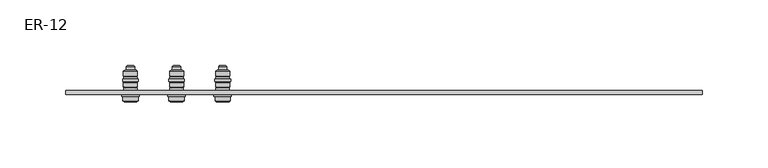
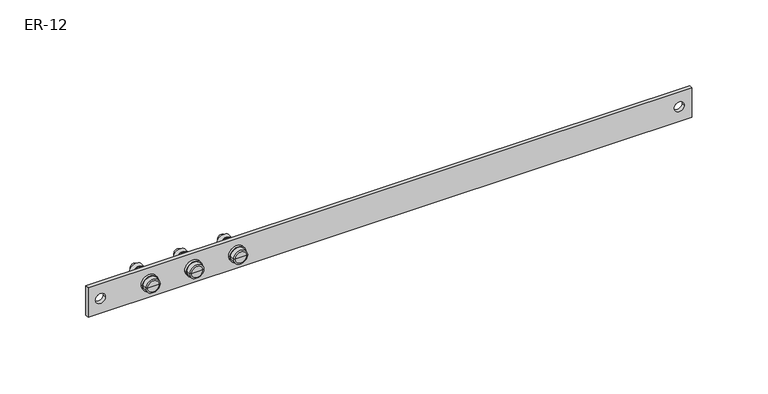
"""IFC4 building model written with IfcOpenShell, lengths in millimetres: proxy geometry, Шина заземления : ER-12."""

from ifc_helpers import new_model, si_unit, point, frame, frame_2d, origin, place, context, project, spatial, polyline, circle_curve, trimmed, segment, composite_curve, outline, extrude, source, transform, mapped, element, save
from ifc_brep_helpers import plane_surface, cylinder_surface, revolved_surface, advanced_brep


def er_12_ffd7bff1(model_context):
    return source(origin(), model_context, "Body", "SolidModel", [
        advanced_brep(
        [(-116.7264973, -8.0090804, 12.5), (-128.2735027, -8.0090804, 12.5), (-128.2735027, -4.6, 12.5), (-116.7264973, -4.6, 12.5), (-117.75, -8.6, 12.5), (-127.25, -8.6, 12.5), (-122.5, -8.6, 12.5), (-120.0415, 18.9478942, 12.5), (-124.9585, 18.9478942, 12.5), (-122.5, 18.9478942, 12.5), (-119.3828125, 18.3807956, 12.5), (-125.6171875, 18.3807956, 12.5), (-119.3828125, 15.6237103, 12.5), (-125.6171875, 15.6237103, 12.5), (-118.45, 15.6237103, 12.5), (-126.55, 15.6237103, 12.5), (-117.1764973, 14.8884531, 12.5), (-127.8235027, 14.8884531, 12.5), (-117.1764973, 11.1589674, 12.5), (-127.8235027, 11.1589674, 12.5), (-118.3098838, 10.4237103, 12.5), (-126.6901162, 10.4237103, 12.5), (-117.3240238, 10.4237103, 12.5), (-127.6759762, 10.4237103, 12.5), (-117.3240238, 8.637908, 12.5), (-127.6759762, 8.637908, 12.5), (-116.5, 8.637908, 12.5), (-128.5, 8.637908, 12.5), (-116.5, 7.037908, 12.5), (-128.5, 7.037908, 12.5), (-118.45, 7.037908, 12.5), (-126.55, 7.037908, 12.5), (-117.1764973, 6.3026509, 12.5), (-127.8235027, 6.3026509, 12.5), (-117.1764973, 2.5731651, 12.5), (-127.8235027, 2.5731651, 12.5), (-118.3098838, 1.837908, 12.5), (-126.6901162, 1.837908, 12.5), (-117.3240238, 1.837908, 12.5), (-127.6759762, 1.837908, 12.5), (-117.3240238, 0.0, 12.5), (-127.6759762, 0.0, 12.5), (-118.3098838, 0.0, 12.5), (-126.6901162, 0.0, 12.5), (-118.3098838, -3.0, 12.5), (-126.6901162, -3.0, 12.5), (-115.9352186, -3.0, 12.5), (-129.0647814, -3.0, 12.5), (-115.9352186, -4.6, 12.5), (-129.0647814, -4.6, 12.5)],
        [
            (0, 1, circle_curve(frame((-122.5, -8.0090804, 12.5), z_axis=(0.0, 1.0, 0.0), x_axis=(-1.0, 0.0, 0.0)), 5.7735027)),
            (1, 2),
            (2, 3, circle_curve(frame((-122.5, -4.6, 12.5), z_axis=(0.0, -1.0, 0.0), x_axis=(-1.0, 0.0, 0.0)), 5.7735027)),
            (3, 0),
            (1, 0, circle_curve(frame((-122.5, -8.0090804, 12.5), z_axis=(0.0, 1.0, 0.0), x_axis=(-1.0, 0.0, 0.0)), 5.7735027)),
            (3, 2, circle_curve(frame((-122.5, -4.6, 12.5), z_axis=(0.0, -1.0, 0.0), x_axis=(-1.0, 0.0, 0.0)), 5.7735027)),
            (4, 5, circle_curve(frame((-122.5, -8.6, 12.5), z_axis=(0.0, 1.0, 0.0), x_axis=(-1.0, 0.0, 0.0)), 4.75)),
            (5, 1),
            (0, 4),
            (5, 4, circle_curve(frame((-122.5, -8.6, 12.5), z_axis=(0.0, 1.0, 0.0), x_axis=(-1.0, 0.0, 0.0)), 4.75)),
            (6, 5),
            (4, 6),
            (7, 8, circle_curve(frame((-122.5, 18.9478942, 12.5), z_axis=(0.0, 1.0, 0.0), x_axis=(-1.0, 0.0, 0.0)), 2.4585)),
            (8, 9),
            (9, 7),
            (8, 7, circle_curve(frame((-122.5, 18.9478942, 12.5), z_axis=(0.0, 1.0, 0.0), x_axis=(-1.0, 0.0, 0.0)), 2.4585)),
            (10, 11, circle_curve(frame((-122.5, 18.3807956, 12.5), z_axis=(0.0, 1.0, 0.0), x_axis=(-1.0, 0.0, 0.0)), 3.1171875)),
            (11, 8),
            (7, 10),
            (11, 10, circle_curve(frame((-122.5, 18.3807956, 12.5), z_axis=(0.0, 1.0, 0.0), x_axis=(-1.0, 0.0, 0.0)), 3.1171875)),
            (12, 13, circle_curve(frame((-122.5, 15.6237103, 12.5), z_axis=(0.0, 1.0, 0.0), x_axis=(-1.0, 0.0, 0.0)), 3.1171875)),
            (13, 11),
            (10, 12),
            (13, 12, circle_curve(frame((-122.5, 15.6237103, 12.5), z_axis=(0.0, 1.0, 0.0), x_axis=(-1.0, 0.0, 0.0)), 3.1171875)),
            (14, 15, circle_curve(frame((-122.5, 15.6237103, 12.5), z_axis=(0.0, 1.0, 0.0), x_axis=(-1.0, 0.0, 0.0)), 4.05)),
            (15, 13),
            (12, 14),
            (15, 14, circle_curve(frame((-122.5, 15.6237103, 12.5), z_axis=(0.0, 1.0, 0.0), x_axis=(-1.0, 0.0, 0.0)), 4.05)),
            (16, 17, circle_curve(frame((-122.5, 14.8884531, 12.5), z_axis=(0.0, 1.0, 0.0), x_axis=(-1.0, 0.0, 0.0)), 5.3235027)),
            (17, 15),
            (14, 16),
            (17, 16, circle_curve(frame((-122.5, 14.8884531, 12.5), z_axis=(0.0, 1.0, 0.0), x_axis=(-1.0, 0.0, 0.0)), 5.3235027)),
            (18, 19, circle_curve(frame((-122.5, 11.1589674, 12.5), z_axis=(0.0, 1.0, 0.0), x_axis=(-1.0, 0.0, 0.0)), 5.3235027)),
            (19, 17),
            (16, 18),
            (19, 18, circle_curve(frame((-122.5, 11.1589674, 12.5), z_axis=(0.0, 1.0, 0.0), x_axis=(-1.0, 0.0, 0.0)), 5.3235027)),
            (20, 21, circle_curve(frame((-122.5, 10.4237103, 12.5), z_axis=(0.0, 1.0, 0.0), x_axis=(-1.0, 0.0, 0.0)), 4.1901162)),
            (21, 19),
            (18, 20),
            (21, 20, circle_curve(frame((-122.5, 10.4237103, 12.5), z_axis=(0.0, 1.0, 0.0), x_axis=(-1.0, 0.0, 0.0)), 4.1901162)),
            (22, 23, circle_curve(frame((-122.5, 10.4237103, 12.5), z_axis=(0.0, 1.0, 0.0), x_axis=(-1.0, 0.0, 0.0)), 5.1759762)),
            (23, 21),
            (20, 22),
            (23, 22, circle_curve(frame((-122.5, 10.4237103, 12.5), z_axis=(0.0, 1.0, 0.0), x_axis=(-1.0, 0.0, 0.0)), 5.1759762)),
            (24, 25, circle_curve(frame((-122.5, 8.637908, 12.5), z_axis=(0.0, 1.0, 0.0), x_axis=(-1.0, 0.0, 0.0)), 5.1759762)),
            (25, 23),
            (22, 24),
            (25, 24, circle_curve(frame((-122.5, 8.637908, 12.5), z_axis=(0.0, 1.0, 0.0), x_axis=(-1.0, 0.0, 0.0)), 5.1759762)),
            (26, 27, circle_curve(frame((-122.5, 8.637908, 12.5), z_axis=(0.0, 1.0, 0.0), x_axis=(-1.0, 0.0, 0.0)), 6.0)),
            (27, 25),
            (24, 26),
            (27, 26, circle_curve(frame((-122.5, 8.637908, 12.5), z_axis=(0.0, 1.0, 0.0), x_axis=(-1.0, 0.0, 0.0)), 6.0)),
            (28, 29, circle_curve(frame((-122.5, 7.037908, 12.5), z_axis=(0.0, 1.0, 0.0), x_axis=(-1.0, 0.0, 0.0)), 6.0)),
            (29, 27),
            (26, 28),
            (29, 28, circle_curve(frame((-122.5, 7.037908, 12.5), z_axis=(0.0, 1.0, 0.0), x_axis=(-1.0, 0.0, 0.0)), 6.0)),
            (30, 31, circle_curve(frame((-122.5, 7.037908, 12.5), z_axis=(0.0, 1.0, 0.0), x_axis=(-1.0, 0.0, 0.0)), 4.05)),
            (31, 29),
            (28, 30),
            (31, 30, circle_curve(frame((-122.5, 7.037908, 12.5), z_axis=(0.0, 1.0, 0.0), x_axis=(-1.0, 0.0, 0.0)), 4.05)),
            (32, 33, circle_curve(frame((-122.5, 6.3026509, 12.5), z_axis=(0.0, 1.0, 0.0), x_axis=(-1.0, 0.0, 0.0)), 5.3235027)),
            (33, 31),
            (30, 32),
            (33, 32, circle_curve(frame((-122.5, 6.3026509, 12.5), z_axis=(0.0, 1.0, 0.0), x_axis=(-1.0, 0.0, 0.0)), 5.3235027)),
            (34, 35, circle_curve(frame((-122.5, 2.5731651, 12.5), z_axis=(0.0, 1.0, 0.0), x_axis=(-1.0, 0.0, 0.0)), 5.3235027)),
            (35, 33),
            (32, 34),
            (35, 34, circle_curve(frame((-122.5, 2.5731651, 12.5), z_axis=(0.0, 1.0, 0.0), x_axis=(-1.0, 0.0, 0.0)), 5.3235027)),
            (36, 37, circle_curve(frame((-122.5, 1.837908, 12.5), z_axis=(0.0, 1.0, 0.0), x_axis=(-1.0, 0.0, 0.0)), 4.1901162)),
            (37, 35),
            (34, 36),
            (37, 36, circle_curve(frame((-122.5, 1.837908, 12.5), z_axis=(0.0, 1.0, 0.0), x_axis=(-1.0, 0.0, 0.0)), 4.1901162)),
            (38, 39, circle_curve(frame((-122.5, 1.837908, 12.5), z_axis=(0.0, 1.0, 0.0), x_axis=(-1.0, 0.0, 0.0)), 5.1759762)),
            (39, 37),
            (36, 38),
            (39, 38, circle_curve(frame((-122.5, 1.837908, 12.5), z_axis=(0.0, 1.0, 0.0), x_axis=(-1.0, 0.0, 0.0)), 5.1759762)),
            (40, 41, circle_curve(frame((-122.5, 0.0, 12.5), z_axis=(0.0, 1.0, 0.0), x_axis=(-1.0, 0.0, 0.0)), 5.1759762)),
            (41, 39),
            (38, 40),
            (41, 40, circle_curve(frame((-122.5, 0.0, 12.5), z_axis=(0.0, 1.0, 0.0), x_axis=(-1.0, 0.0, 0.0)), 5.1759762)),
            (42, 43, circle_curve(frame((-122.5, 0.0, 12.5), z_axis=(0.0, 1.0, 0.0), x_axis=(-1.0, 0.0, 0.0)), 4.1901162)),
            (43, 41),
            (40, 42),
            (43, 42, circle_curve(frame((-122.5, 0.0, 12.5), z_axis=(0.0, 1.0, 0.0), x_axis=(-1.0, 0.0, 0.0)), 4.1901162)),
            (44, 45, circle_curve(frame((-122.5, -3.0, 12.5), z_axis=(0.0, 1.0, 0.0), x_axis=(-1.0, 0.0, 0.0)), 4.1901162)),
            (45, 43),
            (42, 44),
            (45, 44, circle_curve(frame((-122.5, -3.0, 12.5), z_axis=(0.0, 1.0, 0.0), x_axis=(-1.0, 0.0, 0.0)), 4.1901162)),
            (46, 47, circle_curve(frame((-122.5, -3.0, 12.5), z_axis=(0.0, 1.0, 0.0), x_axis=(-1.0, 0.0, 0.0)), 6.5647814)),
            (47, 45),
            (44, 46),
            (47, 46, circle_curve(frame((-122.5, -3.0, 12.5), z_axis=(0.0, 1.0, 0.0), x_axis=(-1.0, 0.0, 0.0)), 6.5647814)),
            (48, 49, circle_curve(frame((-122.5, -4.6, 12.5), z_axis=(0.0, 1.0, 0.0), x_axis=(-1.0, 0.0, 0.0)), 6.5647814)),
            (49, 47),
            (46, 48),
            (49, 48, circle_curve(frame((-122.5, -4.6, 12.5), z_axis=(0.0, 1.0, 0.0), x_axis=(-1.0, 0.0, 0.0)), 6.5647814)),
            (2, 49),
            (48, 3),
        ],
        [
            cylinder_surface(frame((-122.5, 18.9478942, 12.5), z_axis=(0.0, -1.0, 0.0), x_axis=(-1.0, 0.0, 0.0)), 5.7735027),
            revolved_surface(polyline([(-128.2735027, -8.0090804, 12.5), (-127.25, -8.6, 12.5)]), (-122.5, 18.9478942, 12.5), (0.0, -1.0, 0.0)),
            plane_surface(frame((-122.5, -8.6, 12.5), z_axis=(0.0, -1.0, 0.0), x_axis=(-1.0, 0.0, 0.0))),
            plane_surface(frame((-122.5, 18.9478942, 12.5), z_axis=(0.0, 1.0, 0.0), x_axis=(-1.0, 0.0, 0.0))),
            revolved_surface(polyline([(-124.9585, 18.9478942, 12.5), (-125.6171875, 18.3807956, 12.5)]), (-122.5, 18.9478942, 12.5), (0.0, -1.0, 0.0)),
            cylinder_surface(frame((-122.5, 18.9478942, 12.5), z_axis=(0.0, -1.0, 0.0), x_axis=(-1.0, 0.0, 0.0)), 3.1171875),
            plane_surface(frame((-122.5, 15.6237103, 12.5), z_axis=(0.0, 1.0, 0.0), x_axis=(-1.0, 0.0, 0.0))),
            revolved_surface(polyline([(-126.55, 15.6237103, 12.5), (-127.8235027, 14.8884531, 12.5)]), (-122.5, 18.9478942, 12.5), (0.0, -1.0, 0.0)),
            cylinder_surface(frame((-122.5, 18.9478942, 12.5), z_axis=(0.0, -1.0, 0.0), x_axis=(-1.0, 0.0, 0.0)), 5.3235027),
            revolved_surface(polyline([(-127.8235027, 11.1589674, 12.5), (-126.6901162, 10.4237103, 12.5)]), (-122.5, 18.9478942, 12.5), (0.0, -1.0, 0.0)),
            plane_surface(frame((-122.5, 10.4237103, 12.5), z_axis=(0.0, 1.0, 0.0), x_axis=(-1.0, 0.0, 0.0))),
            cylinder_surface(frame((-122.5, 18.9478942, 12.5), z_axis=(0.0, -1.0, 0.0), x_axis=(-1.0, 0.0, 0.0)), 5.1759762),
            plane_surface(frame((-122.5, 8.637908, 12.5), z_axis=(0.0, 1.0, 0.0), x_axis=(-1.0, 0.0, 0.0))),
            cylinder_surface(frame((-122.5, 18.9478942, 12.5), z_axis=(0.0, -1.0, 0.0), x_axis=(-1.0, 0.0, 0.0)), 6.0),
            plane_surface(frame((-122.5, 7.037908, 12.5), z_axis=(0.0, -1.0, 0.0), x_axis=(-1.0, 0.0, 0.0))),
            revolved_surface(polyline([(-126.55, 7.037908, 12.5), (-127.8235027, 6.3026509, 12.5)]), (-122.5, 18.9478942, 12.5), (0.0, -1.0, 0.0)),
            revolved_surface(polyline([(-127.8235027, 2.5731651, 12.5), (-126.6901162, 1.837908, 12.5)]), (-122.5, 18.9478942, 12.5), (0.0, -1.0, 0.0)),
            plane_surface(frame((-122.5, 1.837908, 12.5), z_axis=(0.0, 1.0, 0.0), x_axis=(-1.0, 0.0, 0.0))),
            plane_surface(frame((-122.5, 0.0, 12.5), z_axis=(0.0, -1.0, 0.0), x_axis=(-1.0, 0.0, 0.0))),
            cylinder_surface(frame((-122.5, 18.9478942, 12.5), z_axis=(0.0, -1.0, 0.0), x_axis=(-1.0, 0.0, 0.0)), 4.1901162),
            plane_surface(frame((-122.5, -3.0, 12.5), z_axis=(0.0, 1.0, 0.0), x_axis=(-1.0, 0.0, 0.0))),
            cylinder_surface(frame((-122.5, 18.9478942, 12.5), z_axis=(0.0, -1.0, 0.0), x_axis=(-1.0, 0.0, 0.0)), 6.5647814),
            plane_surface(frame((-122.5, -4.6, 12.5), z_axis=(0.0, -1.0, 0.0), x_axis=(-1.0, 0.0, 0.0))),
        ],
        [
            (0, [[1, 2, 3, 4]]),
            (0, [[5, -4, 6, -2]]),
            (1, [[7, 8, -1, 9]]),
            (1, [[10, -9, -5, -8]]),
            (2, [[11, -7, 12]]),
            (2, [[-12, -10, -11]]),
            (3, [[13, 14, 15]]),
            (3, [[16, -15, -14]]),
            (4, [[17, 18, -13, 19]]),
            (4, [[20, -19, -16, -18]]),
            (5, [[21, 22, -17, 23]]),
            (5, [[24, -23, -20, -22]]),
            (6, [[25, 26, -21, 27]]),
            (6, [[28, -27, -24, -26]]),
            (7, [[29, 30, -25, 31]]),
            (7, [[32, -31, -28, -30]]),
            (8, [[33, 34, -29, 35]]),
            (8, [[36, -35, -32, -34]]),
            (9, [[37, 38, -33, 39]]),
            (9, [[40, -39, -36, -38]]),
            (10, [[41, 42, -37, 43]]),
            (10, [[44, -43, -40, -42]]),
            (11, [[45, 46, -41, 47]]),
            (11, [[48, -47, -44, -46]]),
            (12, [[49, 50, -45, 51]]),
            (12, [[52, -51, -48, -50]]),
            (13, [[53, 54, -49, 55]]),
            (13, [[56, -55, -52, -54]]),
            (14, [[57, 58, -53, 59]]),
            (14, [[60, -59, -56, -58]]),
            (15, [[61, 62, -57, 63]]),
            (15, [[64, -63, -60, -62]]),
            (8, [[65, 66, -61, 67]]),
            (8, [[68, -67, -64, -66]]),
            (16, [[69, 70, -65, 71]]),
            (16, [[72, -71, -68, -70]]),
            (17, [[73, 74, -69, 75]]),
            (17, [[76, -75, -72, -74]]),
            (11, [[77, 78, -73, 79]]),
            (11, [[80, -79, -76, -78]]),
            (18, [[81, 82, -77, 83]]),
            (18, [[84, -83, -80, -82]]),
            (19, [[85, 86, -81, 87]]),
            (19, [[88, -87, -84, -86]]),
            (20, [[89, 90, -85, 91]]),
            (20, [[92, -91, -88, -90]]),
            (21, [[93, 94, -89, 95]]),
            (21, [[96, -95, -92, -94]]),
            (22, [[-3, 97, -93, 98]]),
            (22, [[-6, -98, -96, -97]]),
        ],
    ),
        advanced_brep(
        [(-151.7264973, -8.0090804, 12.5), (-163.2735027, -8.0090804, 12.5), (-163.2735027, -4.6, 12.5), (-151.7264973, -4.6, 12.5), (-152.75, -8.6, 12.5), (-162.25, -8.6, 12.5), (-157.5, -8.6, 12.5), (-155.0415, 18.9478942, 12.5), (-159.9585, 18.9478942, 12.5), (-157.5, 18.9478942, 12.5), (-154.3828125, 18.3807956, 12.5), (-160.6171875, 18.3807956, 12.5), (-154.3828125, 15.6237103, 12.5), (-160.6171875, 15.6237103, 12.5), (-153.45, 15.6237103, 12.5), (-161.55, 15.6237103, 12.5), (-152.1764973, 14.8884531, 12.5), (-162.8235027, 14.8884531, 12.5), (-152.1764973, 11.1589674, 12.5), (-162.8235027, 11.1589674, 12.5), (-153.3098838, 10.4237103, 12.5), (-161.6901162, 10.4237103, 12.5), (-152.3240238, 10.4237103, 12.5), (-162.6759762, 10.4237103, 12.5), (-152.3240238, 8.637908, 12.5), (-162.6759762, 8.637908, 12.5), (-151.5, 8.637908, 12.5), (-163.5, 8.637908, 12.5), (-151.5, 7.037908, 12.5), (-163.5, 7.037908, 12.5), (-153.45, 7.037908, 12.5), (-161.55, 7.037908, 12.5), (-152.1764973, 6.3026509, 12.5), (-162.8235027, 6.3026509, 12.5), (-152.1764973, 2.5731651, 12.5), (-162.8235027, 2.5731651, 12.5), (-153.3098838, 1.837908, 12.5), (-161.6901162, 1.837908, 12.5), (-152.3240238, 1.837908, 12.5), (-162.6759762, 1.837908, 12.5), (-152.3240238, 0.0, 12.5), (-162.6759762, 0.0, 12.5), (-153.3098838, 0.0, 12.5), (-161.6901162, 0.0, 12.5), (-153.3098838, -3.0, 12.5), (-161.6901162, -3.0, 12.5), (-150.9352186, -3.0, 12.5), (-164.0647814, -3.0, 12.5), (-150.9352186, -4.6, 12.5), (-164.0647814, -4.6, 12.5)],
        [
            (0, 1, circle_curve(frame((-157.5, -8.0090804, 12.5), z_axis=(0.0, 1.0, 0.0), x_axis=(-1.0, 0.0, 0.0)), 5.7735027)),
            (1, 2),
            (2, 3, circle_curve(frame((-157.5, -4.6, 12.5), z_axis=(0.0, -1.0, 0.0), x_axis=(-1.0, 0.0, 0.0)), 5.7735027)),
            (3, 0),
            (1, 0, circle_curve(frame((-157.5, -8.0090804, 12.5), z_axis=(0.0, 1.0, 0.0), x_axis=(-1.0, 0.0, 0.0)), 5.7735027)),
            (3, 2, circle_curve(frame((-157.5, -4.6, 12.5), z_axis=(0.0, -1.0, 0.0), x_axis=(-1.0, 0.0, 0.0)), 5.7735027)),
            (4, 5, circle_curve(frame((-157.5, -8.6, 12.5), z_axis=(0.0, 1.0, 0.0), x_axis=(-1.0, 0.0, 0.0)), 4.75)),
            (5, 1),
            (0, 4),
            (5, 4, circle_curve(frame((-157.5, -8.6, 12.5), z_axis=(0.0, 1.0, 0.0), x_axis=(-1.0, 0.0, 0.0)), 4.75)),
            (6, 5),
            (4, 6),
            (7, 8, circle_curve(frame((-157.5, 18.9478942, 12.5), z_axis=(0.0, 1.0, 0.0), x_axis=(-1.0, 0.0, 0.0)), 2.4585)),
            (8, 9),
            (9, 7),
            (8, 7, circle_curve(frame((-157.5, 18.9478942, 12.5), z_axis=(0.0, 1.0, 0.0), x_axis=(-1.0, 0.0, 0.0)), 2.4585)),
            (10, 11, circle_curve(frame((-157.5, 18.3807956, 12.5), z_axis=(0.0, 1.0, 0.0), x_axis=(-1.0, 0.0, 0.0)), 3.1171875)),
            (11, 8),
            (7, 10),
            (11, 10, circle_curve(frame((-157.5, 18.3807956, 12.5), z_axis=(0.0, 1.0, 0.0), x_axis=(-1.0, 0.0, 0.0)), 3.1171875)),
            (12, 13, circle_curve(frame((-157.5, 15.6237103, 12.5), z_axis=(0.0, 1.0, 0.0), x_axis=(-1.0, 0.0, 0.0)), 3.1171875)),
            (13, 11),
            (10, 12),
            (13, 12, circle_curve(frame((-157.5, 15.6237103, 12.5), z_axis=(0.0, 1.0, 0.0), x_axis=(-1.0, 0.0, 0.0)), 3.1171875)),
            (14, 15, circle_curve(frame((-157.5, 15.6237103, 12.5), z_axis=(0.0, 1.0, 0.0), x_axis=(-1.0, 0.0, 0.0)), 4.05)),
            (15, 13),
            (12, 14),
            (15, 14, circle_curve(frame((-157.5, 15.6237103, 12.5), z_axis=(0.0, 1.0, 0.0), x_axis=(-1.0, 0.0, 0.0)), 4.05)),
            (16, 17, circle_curve(frame((-157.5, 14.8884531, 12.5), z_axis=(0.0, 1.0, 0.0), x_axis=(-1.0, 0.0, 0.0)), 5.3235027)),
            (17, 15),
            (14, 16),
            (17, 16, circle_curve(frame((-157.5, 14.8884531, 12.5), z_axis=(0.0, 1.0, 0.0), x_axis=(-1.0, 0.0, 0.0)), 5.3235027)),
            (18, 19, circle_curve(frame((-157.5, 11.1589674, 12.5), z_axis=(0.0, 1.0, 0.0), x_axis=(-1.0, 0.0, 0.0)), 5.3235027)),
            (19, 17),
            (16, 18),
            (19, 18, circle_curve(frame((-157.5, 11.1589674, 12.5), z_axis=(0.0, 1.0, 0.0), x_axis=(-1.0, 0.0, 0.0)), 5.3235027)),
            (20, 21, circle_curve(frame((-157.5, 10.4237103, 12.5), z_axis=(0.0, 1.0, 0.0), x_axis=(-1.0, 0.0, 0.0)), 4.1901162)),
            (21, 19),
            (18, 20),
            (21, 20, circle_curve(frame((-157.5, 10.4237103, 12.5), z_axis=(0.0, 1.0, 0.0), x_axis=(-1.0, 0.0, 0.0)), 4.1901162)),
            (22, 23, circle_curve(frame((-157.5, 10.4237103, 12.5), z_axis=(0.0, 1.0, 0.0), x_axis=(-1.0, 0.0, 0.0)), 5.1759762)),
            (23, 21),
            (20, 22),
            (23, 22, circle_curve(frame((-157.5, 10.4237103, 12.5), z_axis=(0.0, 1.0, 0.0), x_axis=(-1.0, 0.0, 0.0)), 5.1759762)),
            (24, 25, circle_curve(frame((-157.5, 8.637908, 12.5), z_axis=(0.0, 1.0, 0.0), x_axis=(-1.0, 0.0, 0.0)), 5.1759762)),
            (25, 23),
            (22, 24),
            (25, 24, circle_curve(frame((-157.5, 8.637908, 12.5), z_axis=(0.0, 1.0, 0.0), x_axis=(-1.0, 0.0, 0.0)), 5.1759762)),
            (26, 27, circle_curve(frame((-157.5, 8.637908, 12.5), z_axis=(0.0, 1.0, 0.0), x_axis=(-1.0, 0.0, 0.0)), 6.0)),
            (27, 25),
            (24, 26),
            (27, 26, circle_curve(frame((-157.5, 8.637908, 12.5), z_axis=(0.0, 1.0, 0.0), x_axis=(-1.0, 0.0, 0.0)), 6.0)),
            (28, 29, circle_curve(frame((-157.5, 7.037908, 12.5), z_axis=(0.0, 1.0, 0.0), x_axis=(-1.0, 0.0, 0.0)), 6.0)),
            (29, 27),
            (26, 28),
            (29, 28, circle_curve(frame((-157.5, 7.037908, 12.5), z_axis=(0.0, 1.0, 0.0), x_axis=(-1.0, 0.0, 0.0)), 6.0)),
            (30, 31, circle_curve(frame((-157.5, 7.037908, 12.5), z_axis=(0.0, 1.0, 0.0), x_axis=(-1.0, 0.0, 0.0)), 4.05)),
            (31, 29),
            (28, 30),
            (31, 30, circle_curve(frame((-157.5, 7.037908, 12.5), z_axis=(0.0, 1.0, 0.0), x_axis=(-1.0, 0.0, 0.0)), 4.05)),
            (32, 33, circle_curve(frame((-157.5, 6.3026509, 12.5), z_axis=(0.0, 1.0, 0.0), x_axis=(-1.0, 0.0, 0.0)), 5.3235027)),
            (33, 31),
            (30, 32),
            (33, 32, circle_curve(frame((-157.5, 6.3026509, 12.5), z_axis=(0.0, 1.0, 0.0), x_axis=(-1.0, 0.0, 0.0)), 5.3235027)),
            (34, 35, circle_curve(frame((-157.5, 2.5731651, 12.5), z_axis=(0.0, 1.0, 0.0), x_axis=(-1.0, 0.0, 0.0)), 5.3235027)),
            (35, 33),
            (32, 34),
            (35, 34, circle_curve(frame((-157.5, 2.5731651, 12.5), z_axis=(0.0, 1.0, 0.0), x_axis=(-1.0, 0.0, 0.0)), 5.3235027)),
            (36, 37, circle_curve(frame((-157.5, 1.837908, 12.5), z_axis=(0.0, 1.0, 0.0), x_axis=(-1.0, 0.0, 0.0)), 4.1901162)),
            (37, 35),
            (34, 36),
            (37, 36, circle_curve(frame((-157.5, 1.837908, 12.5), z_axis=(0.0, 1.0, 0.0), x_axis=(-1.0, 0.0, 0.0)), 4.1901162)),
            (38, 39, circle_curve(frame((-157.5, 1.837908, 12.5), z_axis=(0.0, 1.0, 0.0), x_axis=(-1.0, 0.0, 0.0)), 5.1759762)),
            (39, 37),
            (36, 38),
            (39, 38, circle_curve(frame((-157.5, 1.837908, 12.5), z_axis=(0.0, 1.0, 0.0), x_axis=(-1.0, 0.0, 0.0)), 5.1759762)),
            (40, 41, circle_curve(frame((-157.5, 0.0, 12.5), z_axis=(0.0, 1.0, 0.0), x_axis=(-1.0, 0.0, 0.0)), 5.1759762)),
            (41, 39),
            (38, 40),
            (41, 40, circle_curve(frame((-157.5, 0.0, 12.5), z_axis=(0.0, 1.0, 0.0), x_axis=(-1.0, 0.0, 0.0)), 5.1759762)),
            (42, 43, circle_curve(frame((-157.5, 0.0, 12.5), z_axis=(0.0, 1.0, 0.0), x_axis=(-1.0, 0.0, 0.0)), 4.1901162)),
            (43, 41),
            (40, 42),
            (43, 42, circle_curve(frame((-157.5, 0.0, 12.5), z_axis=(0.0, 1.0, 0.0), x_axis=(-1.0, 0.0, 0.0)), 4.1901162)),
            (44, 45, circle_curve(frame((-157.5, -3.0, 12.5), z_axis=(0.0, 1.0, 0.0), x_axis=(-1.0, 0.0, 0.0)), 4.1901162)),
            (45, 43),
            (42, 44),
            (45, 44, circle_curve(frame((-157.5, -3.0, 12.5), z_axis=(0.0, 1.0, 0.0), x_axis=(-1.0, 0.0, 0.0)), 4.1901162)),
            (46, 47, circle_curve(frame((-157.5, -3.0, 12.5), z_axis=(0.0, 1.0, 0.0), x_axis=(-1.0, 0.0, 0.0)), 6.5647814)),
            (47, 45),
            (44, 46),
            (47, 46, circle_curve(frame((-157.5, -3.0, 12.5), z_axis=(0.0, 1.0, 0.0), x_axis=(-1.0, 0.0, 0.0)), 6.5647814)),
            (48, 49, circle_curve(frame((-157.5, -4.6, 12.5), z_axis=(0.0, 1.0, 0.0), x_axis=(-1.0, 0.0, 0.0)), 6.5647814)),
            (49, 47),
            (46, 48),
            (49, 48, circle_curve(frame((-157.5, -4.6, 12.5), z_axis=(0.0, 1.0, 0.0), x_axis=(-1.0, 0.0, 0.0)), 6.5647814)),
            (2, 49),
            (48, 3),
        ],
        [
            cylinder_surface(frame((-157.5, 18.9478942, 12.5), z_axis=(0.0, -1.0, 0.0), x_axis=(-1.0, 0.0, 0.0)), 5.7735027),
            revolved_surface(polyline([(-163.2735027, -8.0090804, 12.5), (-162.25, -8.6, 12.5)]), (-157.5, 18.9478942, 12.5), (0.0, -1.0, 0.0)),
            plane_surface(frame((-157.5, -8.6, 12.5), z_axis=(0.0, -1.0, 0.0), x_axis=(-1.0, 0.0, 0.0))),
            plane_surface(frame((-157.5, 18.9478942, 12.5), z_axis=(0.0, 1.0, 0.0), x_axis=(-1.0, 0.0, 0.0))),
            revolved_surface(polyline([(-159.9585, 18.9478942, 12.5), (-160.6171875, 18.3807956, 12.5)]), (-157.5, 18.9478942, 12.5), (0.0, -1.0, 0.0)),
            cylinder_surface(frame((-157.5, 18.9478942, 12.5), z_axis=(0.0, -1.0, 0.0), x_axis=(-1.0, 0.0, 0.0)), 3.1171875),
            plane_surface(frame((-157.5, 15.6237103, 12.5), z_axis=(0.0, 1.0, 0.0), x_axis=(-1.0, 0.0, 0.0))),
            revolved_surface(polyline([(-161.55, 15.6237103, 12.5), (-162.8235027, 14.8884531, 12.5)]), (-157.5, 18.9478942, 12.5), (0.0, -1.0, 0.0)),
            cylinder_surface(frame((-157.5, 18.9478942, 12.5), z_axis=(0.0, -1.0, 0.0), x_axis=(-1.0, 0.0, 0.0)), 5.3235027),
            revolved_surface(polyline([(-162.8235027, 11.1589674, 12.5), (-161.6901162, 10.4237103, 12.5)]), (-157.5, 18.9478942, 12.5), (0.0, -1.0, 0.0)),
            plane_surface(frame((-157.5, 10.4237103, 12.5), z_axis=(0.0, 1.0, 0.0), x_axis=(-1.0, 0.0, 0.0))),
            cylinder_surface(frame((-157.5, 18.9478942, 12.5), z_axis=(0.0, -1.0, 0.0), x_axis=(-1.0, 0.0, 0.0)), 5.1759762),
            plane_surface(frame((-157.5, 8.637908, 12.5), z_axis=(0.0, 1.0, 0.0), x_axis=(-1.0, 0.0, 0.0))),
            cylinder_surface(frame((-157.5, 18.9478942, 12.5), z_axis=(0.0, -1.0, 0.0), x_axis=(-1.0, 0.0, 0.0)), 6.0),
            plane_surface(frame((-157.5, 7.037908, 12.5), z_axis=(0.0, -1.0, 0.0), x_axis=(-1.0, 0.0, 0.0))),
            revolved_surface(polyline([(-161.55, 7.037908, 12.5), (-162.8235027, 6.3026509, 12.5)]), (-157.5, 18.9478942, 12.5), (0.0, -1.0, 0.0)),
            revolved_surface(polyline([(-162.8235027, 2.5731651, 12.5), (-161.6901162, 1.837908, 12.5)]), (-157.5, 18.9478942, 12.5), (0.0, -1.0, 0.0)),
            plane_surface(frame((-157.5, 1.837908, 12.5), z_axis=(0.0, 1.0, 0.0), x_axis=(-1.0, 0.0, 0.0))),
            plane_surface(frame((-157.5, 0.0, 12.5), z_axis=(0.0, -1.0, 0.0), x_axis=(-1.0, 0.0, 0.0))),
            cylinder_surface(frame((-157.5, 18.9478942, 12.5), z_axis=(0.0, -1.0, 0.0), x_axis=(-1.0, 0.0, 0.0)), 4.1901162),
            plane_surface(frame((-157.5, -3.0, 12.5), z_axis=(0.0, 1.0, 0.0), x_axis=(-1.0, 0.0, 0.0))),
            cylinder_surface(frame((-157.5, 18.9478942, 12.5), z_axis=(0.0, -1.0, 0.0), x_axis=(-1.0, 0.0, 0.0)), 6.5647814),
            plane_surface(frame((-157.5, -4.6, 12.5), z_axis=(0.0, -1.0, 0.0), x_axis=(-1.0, 0.0, 0.0))),
        ],
        [
            (0, [[1, 2, 3, 4]]),
            (0, [[5, -4, 6, -2]]),
            (1, [[7, 8, -1, 9]]),
            (1, [[10, -9, -5, -8]]),
            (2, [[11, -7, 12]]),
            (2, [[-12, -10, -11]]),
            (3, [[13, 14, 15]]),
            (3, [[16, -15, -14]]),
            (4, [[17, 18, -13, 19]]),
            (4, [[20, -19, -16, -18]]),
            (5, [[21, 22, -17, 23]]),
            (5, [[24, -23, -20, -22]]),
            (6, [[25, 26, -21, 27]]),
            (6, [[28, -27, -24, -26]]),
            (7, [[29, 30, -25, 31]]),
            (7, [[32, -31, -28, -30]]),
            (8, [[33, 34, -29, 35]]),
            (8, [[36, -35, -32, -34]]),
            (9, [[37, 38, -33, 39]]),
            (9, [[40, -39, -36, -38]]),
            (10, [[41, 42, -37, 43]]),
            (10, [[44, -43, -40, -42]]),
            (11, [[45, 46, -41, 47]]),
            (11, [[48, -47, -44, -46]]),
            (12, [[49, 50, -45, 51]]),
            (12, [[52, -51, -48, -50]]),
            (13, [[53, 54, -49, 55]]),
            (13, [[56, -55, -52, -54]]),
            (14, [[57, 58, -53, 59]]),
            (14, [[60, -59, -56, -58]]),
            (15, [[61, 62, -57, 63]]),
            (15, [[64, -63, -60, -62]]),
            (8, [[65, 66, -61, 67]]),
            (8, [[68, -67, -64, -66]]),
            (16, [[69, 70, -65, 71]]),
            (16, [[72, -71, -68, -70]]),
            (17, [[73, 74, -69, 75]]),
            (17, [[76, -75, -72, -74]]),
            (11, [[77, 78, -73, 79]]),
            (11, [[80, -79, -76, -78]]),
            (18, [[81, 82, -77, 83]]),
            (18, [[84, -83, -80, -82]]),
            (19, [[85, 86, -81, 87]]),
            (19, [[88, -87, -84, -86]]),
            (20, [[89, 90, -85, 91]]),
            (20, [[92, -91, -88, -90]]),
            (21, [[93, 94, -89, 95]]),
            (21, [[96, -95, -92, -94]]),
            (22, [[-3, 97, -93, 98]]),
            (22, [[-6, -98, -96, -97]]),
        ],
    ),
        advanced_brep(
        [(-186.7264973, -8.0090804, 12.5), (-198.2735027, -8.0090804, 12.5), (-198.2735027, -4.6, 12.5), (-186.7264973, -4.6, 12.5), (-187.75, -8.6, 12.5), (-197.25, -8.6, 12.5), (-192.5, -8.6, 12.5), (-190.0415, 18.9478942, 12.5), (-194.9585, 18.9478942, 12.5), (-192.5, 18.9478942, 12.5), (-189.3828125, 18.3807956, 12.5), (-195.6171875, 18.3807956, 12.5), (-189.3828125, 15.6237103, 12.5), (-195.6171875, 15.6237103, 12.5), (-188.45, 15.6237103, 12.5), (-196.55, 15.6237103, 12.5), (-187.1764973, 14.8884531, 12.5), (-197.8235027, 14.8884531, 12.5), (-187.1764973, 11.1589674, 12.5), (-197.8235027, 11.1589674, 12.5), (-188.3098838, 10.4237103, 12.5), (-196.6901162, 10.4237103, 12.5), (-187.3240238, 10.4237103, 12.5), (-197.6759762, 10.4237103, 12.5), (-187.3240238, 8.637908, 12.5), (-197.6759762, 8.637908, 12.5), (-186.5, 8.637908, 12.5), (-198.5, 8.637908, 12.5), (-186.5, 7.037908, 12.5), (-198.5, 7.037908, 12.5), (-188.45, 7.037908, 12.5), (-196.55, 7.037908, 12.5), (-187.1764973, 6.3026509, 12.5), (-197.8235027, 6.3026509, 12.5), (-187.1764973, 2.5731651, 12.5), (-197.8235027, 2.5731651, 12.5), (-188.3098838, 1.837908, 12.5), (-196.6901162, 1.837908, 12.5), (-187.3240238, 1.837908, 12.5), (-197.6759762, 1.837908, 12.5), (-187.3240238, 0.0, 12.5), (-197.6759762, 0.0, 12.5), (-188.3098838, 0.0, 12.5), (-196.6901162, 0.0, 12.5), (-188.3098838, -3.0, 12.5), (-196.6901162, -3.0, 12.5), (-185.9352186, -3.0, 12.5), (-199.0647814, -3.0, 12.5), (-185.9352186, -4.6, 12.5), (-199.0647814, -4.6, 12.5)],
        [
            (0, 1, circle_curve(frame((-192.5, -8.0090804, 12.5), z_axis=(0.0, 1.0, 0.0), x_axis=(-1.0, 0.0, 0.0)), 5.7735027)),
            (1, 2),
            (2, 3, circle_curve(frame((-192.5, -4.6, 12.5), z_axis=(0.0, -1.0, 0.0), x_axis=(-1.0, 0.0, 0.0)), 5.7735027)),
            (3, 0),
            (1, 0, circle_curve(frame((-192.5, -8.0090804, 12.5), z_axis=(0.0, 1.0, 0.0), x_axis=(-1.0, 0.0, 0.0)), 5.7735027)),
            (3, 2, circle_curve(frame((-192.5, -4.6, 12.5), z_axis=(0.0, -1.0, 0.0), x_axis=(-1.0, 0.0, 0.0)), 5.7735027)),
            (4, 5, circle_curve(frame((-192.5, -8.6, 12.5), z_axis=(0.0, 1.0, 0.0), x_axis=(-1.0, 0.0, 0.0)), 4.75)),
            (5, 1),
            (0, 4),
            (5, 4, circle_curve(frame((-192.5, -8.6, 12.5), z_axis=(0.0, 1.0, 0.0), x_axis=(-1.0, 0.0, 0.0)), 4.75)),
            (6, 5),
            (4, 6),
            (7, 8, circle_curve(frame((-192.5, 18.9478942, 12.5), z_axis=(0.0, 1.0, 0.0), x_axis=(-1.0, 0.0, 0.0)), 2.4585)),
            (8, 9),
            (9, 7),
            (8, 7, circle_curve(frame((-192.5, 18.9478942, 12.5), z_axis=(0.0, 1.0, 0.0), x_axis=(-1.0, 0.0, 0.0)), 2.4585)),
            (10, 11, circle_curve(frame((-192.5, 18.3807956, 12.5), z_axis=(0.0, 1.0, 0.0), x_axis=(-1.0, 0.0, 0.0)), 3.1171875)),
            (11, 8),
            (7, 10),
            (11, 10, circle_curve(frame((-192.5, 18.3807956, 12.5), z_axis=(0.0, 1.0, 0.0), x_axis=(-1.0, 0.0, 0.0)), 3.1171875)),
            (12, 13, circle_curve(frame((-192.5, 15.6237103, 12.5), z_axis=(0.0, 1.0, 0.0), x_axis=(-1.0, 0.0, 0.0)), 3.1171875)),
            (13, 11),
            (10, 12),
            (13, 12, circle_curve(frame((-192.5, 15.6237103, 12.5), z_axis=(0.0, 1.0, 0.0), x_axis=(-1.0, 0.0, 0.0)), 3.1171875)),
            (14, 15, circle_curve(frame((-192.5, 15.6237103, 12.5), z_axis=(0.0, 1.0, 0.0), x_axis=(-1.0, 0.0, 0.0)), 4.05)),
            (15, 13),
            (12, 14),
            (15, 14, circle_curve(frame((-192.5, 15.6237103, 12.5), z_axis=(0.0, 1.0, 0.0), x_axis=(-1.0, 0.0, 0.0)), 4.05)),
            (16, 17, circle_curve(frame((-192.5, 14.8884531, 12.5), z_axis=(0.0, 1.0, 0.0), x_axis=(-1.0, 0.0, 0.0)), 5.3235027)),
            (17, 15),
            (14, 16),
            (17, 16, circle_curve(frame((-192.5, 14.8884531, 12.5), z_axis=(0.0, 1.0, 0.0), x_axis=(-1.0, 0.0, 0.0)), 5.3235027)),
            (18, 19, circle_curve(frame((-192.5, 11.1589674, 12.5), z_axis=(0.0, 1.0, 0.0), x_axis=(-1.0, 0.0, 0.0)), 5.3235027)),
            (19, 17),
            (16, 18),
            (19, 18, circle_curve(frame((-192.5, 11.1589674, 12.5), z_axis=(0.0, 1.0, 0.0), x_axis=(-1.0, 0.0, 0.0)), 5.3235027)),
            (20, 21, circle_curve(frame((-192.5, 10.4237103, 12.5), z_axis=(0.0, 1.0, 0.0), x_axis=(-1.0, 0.0, 0.0)), 4.1901162)),
            (21, 19),
            (18, 20),
            (21, 20, circle_curve(frame((-192.5, 10.4237103, 12.5), z_axis=(0.0, 1.0, 0.0), x_axis=(-1.0, 0.0, 0.0)), 4.1901162)),
            (22, 23, circle_curve(frame((-192.5, 10.4237103, 12.5), z_axis=(0.0, 1.0, 0.0), x_axis=(-1.0, 0.0, 0.0)), 5.1759762)),
            (23, 21),
            (20, 22),
            (23, 22, circle_curve(frame((-192.5, 10.4237103, 12.5), z_axis=(0.0, 1.0, 0.0), x_axis=(-1.0, 0.0, 0.0)), 5.1759762)),
            (24, 25, circle_curve(frame((-192.5, 8.637908, 12.5), z_axis=(0.0, 1.0, 0.0), x_axis=(-1.0, 0.0, 0.0)), 5.1759762)),
            (25, 23),
            (22, 24),
            (25, 24, circle_curve(frame((-192.5, 8.637908, 12.5), z_axis=(0.0, 1.0, 0.0), x_axis=(-1.0, 0.0, 0.0)), 5.1759762)),
            (26, 27, circle_curve(frame((-192.5, 8.637908, 12.5), z_axis=(0.0, 1.0, 0.0), x_axis=(-1.0, 0.0, 0.0)), 6.0)),
            (27, 25),
            (24, 26),
            (27, 26, circle_curve(frame((-192.5, 8.637908, 12.5), z_axis=(0.0, 1.0, 0.0), x_axis=(-1.0, 0.0, 0.0)), 6.0)),
            (28, 29, circle_curve(frame((-192.5, 7.037908, 12.5), z_axis=(0.0, 1.0, 0.0), x_axis=(-1.0, 0.0, 0.0)), 6.0)),
            (29, 27),
            (26, 28),
            (29, 28, circle_curve(frame((-192.5, 7.037908, 12.5), z_axis=(0.0, 1.0, 0.0), x_axis=(-1.0, 0.0, 0.0)), 6.0)),
            (30, 31, circle_curve(frame((-192.5, 7.037908, 12.5), z_axis=(0.0, 1.0, 0.0), x_axis=(-1.0, 0.0, 0.0)), 4.05)),
            (31, 29),
            (28, 30),
            (31, 30, circle_curve(frame((-192.5, 7.037908, 12.5), z_axis=(0.0, 1.0, 0.0), x_axis=(-1.0, 0.0, 0.0)), 4.05)),
            (32, 33, circle_curve(frame((-192.5, 6.3026509, 12.5), z_axis=(0.0, 1.0, 0.0), x_axis=(-1.0, 0.0, 0.0)), 5.3235027)),
            (33, 31),
            (30, 32),
            (33, 32, circle_curve(frame((-192.5, 6.3026509, 12.5), z_axis=(0.0, 1.0, 0.0), x_axis=(-1.0, 0.0, 0.0)), 5.3235027)),
            (34, 35, circle_curve(frame((-192.5, 2.5731651, 12.5), z_axis=(0.0, 1.0, 0.0), x_axis=(-1.0, 0.0, 0.0)), 5.3235027)),
            (35, 33),
            (32, 34),
            (35, 34, circle_curve(frame((-192.5, 2.5731651, 12.5), z_axis=(0.0, 1.0, 0.0), x_axis=(-1.0, 0.0, 0.0)), 5.3235027)),
            (36, 37, circle_curve(frame((-192.5, 1.837908, 12.5), z_axis=(0.0, 1.0, 0.0), x_axis=(-1.0, 0.0, 0.0)), 4.1901162)),
            (37, 35),
            (34, 36),
            (37, 36, circle_curve(frame((-192.5, 1.837908, 12.5), z_axis=(0.0, 1.0, 0.0), x_axis=(-1.0, 0.0, 0.0)), 4.1901162)),
            (38, 39, circle_curve(frame((-192.5, 1.837908, 12.5), z_axis=(0.0, 1.0, 0.0), x_axis=(-1.0, 0.0, 0.0)), 5.1759762)),
            (39, 37),
            (36, 38),
            (39, 38, circle_curve(frame((-192.5, 1.837908, 12.5), z_axis=(0.0, 1.0, 0.0), x_axis=(-1.0, 0.0, 0.0)), 5.1759762)),
            (40, 41, circle_curve(frame((-192.5, 0.0, 12.5), z_axis=(0.0, 1.0, 0.0), x_axis=(-1.0, 0.0, 0.0)), 5.1759762)),
            (41, 39),
            (38, 40),
            (41, 40, circle_curve(frame((-192.5, 0.0, 12.5), z_axis=(0.0, 1.0, 0.0), x_axis=(-1.0, 0.0, 0.0)), 5.1759762)),
            (42, 43, circle_curve(frame((-192.5, 0.0, 12.5), z_axis=(0.0, 1.0, 0.0), x_axis=(-1.0, 0.0, 0.0)), 4.1901162)),
            (43, 41),
            (40, 42),
            (43, 42, circle_curve(frame((-192.5, 0.0, 12.5), z_axis=(0.0, 1.0, 0.0), x_axis=(-1.0, 0.0, 0.0)), 4.1901162)),
            (44, 45, circle_curve(frame((-192.5, -3.0, 12.5), z_axis=(0.0, 1.0, 0.0), x_axis=(-1.0, 0.0, 0.0)), 4.1901162)),
            (45, 43),
            (42, 44),
            (45, 44, circle_curve(frame((-192.5, -3.0, 12.5), z_axis=(0.0, 1.0, 0.0), x_axis=(-1.0, 0.0, 0.0)), 4.1901162)),
            (46, 47, circle_curve(frame((-192.5, -3.0, 12.5), z_axis=(0.0, 1.0, 0.0), x_axis=(-1.0, 0.0, 0.0)), 6.5647814)),
            (47, 45),
            (44, 46),
            (47, 46, circle_curve(frame((-192.5, -3.0, 12.5), z_axis=(0.0, 1.0, 0.0), x_axis=(-1.0, 0.0, 0.0)), 6.5647814)),
            (48, 49, circle_curve(frame((-192.5, -4.6, 12.5), z_axis=(0.0, 1.0, 0.0), x_axis=(-1.0, 0.0, 0.0)), 6.5647814)),
            (49, 47),
            (46, 48),
            (49, 48, circle_curve(frame((-192.5, -4.6, 12.5), z_axis=(0.0, 1.0, 0.0), x_axis=(-1.0, 0.0, 0.0)), 6.5647814)),
            (2, 49),
            (48, 3),
        ],
        [
            cylinder_surface(frame((-192.5, 18.9478942, 12.5), z_axis=(0.0, -1.0, 0.0), x_axis=(-1.0, 0.0, 0.0)), 5.7735027),
            revolved_surface(polyline([(-198.2735027, -8.0090804, 12.5), (-197.25, -8.6, 12.5)]), (-192.5, 18.9478942, 12.5), (0.0, -1.0, 0.0)),
            plane_surface(frame((-192.5, -8.6, 12.5), z_axis=(0.0, -1.0, 0.0), x_axis=(-1.0, 0.0, 0.0))),
            plane_surface(frame((-192.5, 18.9478942, 12.5), z_axis=(0.0, 1.0, 0.0), x_axis=(-1.0, 0.0, 0.0))),
            revolved_surface(polyline([(-194.9585, 18.9478942, 12.5), (-195.6171875, 18.3807956, 12.5)]), (-192.5, 18.9478942, 12.5), (0.0, -1.0, 0.0)),
            cylinder_surface(frame((-192.5, 18.9478942, 12.5), z_axis=(0.0, -1.0, 0.0), x_axis=(-1.0, 0.0, 0.0)), 3.1171875),
            plane_surface(frame((-192.5, 15.6237103, 12.5), z_axis=(0.0, 1.0, 0.0), x_axis=(-1.0, 0.0, 0.0))),
            revolved_surface(polyline([(-196.55, 15.6237103, 12.5), (-197.8235027, 14.8884531, 12.5)]), (-192.5, 18.9478942, 12.5), (0.0, -1.0, 0.0)),
            cylinder_surface(frame((-192.5, 18.9478942, 12.5), z_axis=(0.0, -1.0, 0.0), x_axis=(-1.0, 0.0, 0.0)), 5.3235027),
            revolved_surface(polyline([(-197.8235027, 11.1589674, 12.5), (-196.6901162, 10.4237103, 12.5)]), (-192.5, 18.9478942, 12.5), (0.0, -1.0, 0.0)),
            plane_surface(frame((-192.5, 10.4237103, 12.5), z_axis=(0.0, 1.0, 0.0), x_axis=(-1.0, 0.0, 0.0))),
            cylinder_surface(frame((-192.5, 18.9478942, 12.5), z_axis=(0.0, -1.0, 0.0), x_axis=(-1.0, 0.0, 0.0)), 5.1759762),
            plane_surface(frame((-192.5, 8.637908, 12.5), z_axis=(0.0, 1.0, 0.0), x_axis=(-1.0, 0.0, 0.0))),
            cylinder_surface(frame((-192.5, 18.9478942, 12.5), z_axis=(0.0, -1.0, 0.0), x_axis=(-1.0, 0.0, 0.0)), 6.0),
            plane_surface(frame((-192.5, 7.037908, 12.5), z_axis=(0.0, -1.0, 0.0), x_axis=(-1.0, 0.0, 0.0))),
            revolved_surface(polyline([(-196.55, 7.037908, 12.5), (-197.8235027, 6.3026509, 12.5)]), (-192.5, 18.9478942, 12.5), (0.0, -1.0, 0.0)),
            revolved_surface(polyline([(-197.8235027, 2.5731651, 12.5), (-196.6901162, 1.837908, 12.5)]), (-192.5, 18.9478942, 12.5), (0.0, -1.0, 0.0)),
            plane_surface(frame((-192.5, 1.837908, 12.5), z_axis=(0.0, 1.0, 0.0), x_axis=(-1.0, 0.0, 0.0))),
            plane_surface(frame((-192.5, 0.0, 12.5), z_axis=(0.0, -1.0, 0.0), x_axis=(-1.0, 0.0, 0.0))),
            cylinder_surface(frame((-192.5, 18.9478942, 12.5), z_axis=(0.0, -1.0, 0.0), x_axis=(-1.0, 0.0, 0.0)), 4.1901162),
            plane_surface(frame((-192.5, -3.0, 12.5), z_axis=(0.0, 1.0, 0.0), x_axis=(-1.0, 0.0, 0.0))),
            cylinder_surface(frame((-192.5, 18.9478942, 12.5), z_axis=(0.0, -1.0, 0.0), x_axis=(-1.0, 0.0, 0.0)), 6.5647814),
            plane_surface(frame((-192.5, -4.6, 12.5), z_axis=(0.0, -1.0, 0.0), x_axis=(-1.0, 0.0, 0.0))),
        ],
        [
            (0, [[1, 2, 3, 4]]),
            (0, [[5, -4, 6, -2]]),
            (1, [[7, 8, -1, 9]]),
            (1, [[10, -9, -5, -8]]),
            (2, [[11, -7, 12]]),
            (2, [[-12, -10, -11]]),
            (3, [[13, 14, 15]]),
            (3, [[16, -15, -14]]),
            (4, [[17, 18, -13, 19]]),
            (4, [[20, -19, -16, -18]]),
            (5, [[21, 22, -17, 23]]),
            (5, [[24, -23, -20, -22]]),
            (6, [[25, 26, -21, 27]]),
            (6, [[28, -27, -24, -26]]),
            (7, [[29, 30, -25, 31]]),
            (7, [[32, -31, -28, -30]]),
            (8, [[33, 34, -29, 35]]),
            (8, [[36, -35, -32, -34]]),
            (9, [[37, 38, -33, 39]]),
            (9, [[40, -39, -36, -38]]),
            (10, [[41, 42, -37, 43]]),
            (10, [[44, -43, -40, -42]]),
            (11, [[45, 46, -41, 47]]),
            (11, [[48, -47, -44, -46]]),
            (12, [[49, 50, -45, 51]]),
            (12, [[52, -51, -48, -50]]),
            (13, [[53, 54, -49, 55]]),
            (13, [[56, -55, -52, -54]]),
            (14, [[57, 58, -53, 59]]),
            (14, [[60, -59, -56, -58]]),
            (15, [[61, 62, -57, 63]]),
            (15, [[64, -63, -60, -62]]),
            (8, [[65, 66, -61, 67]]),
            (8, [[68, -67, -64, -66]]),
            (16, [[69, 70, -65, 71]]),
            (16, [[72, -71, -68, -70]]),
            (17, [[73, 74, -69, 75]]),
            (17, [[76, -75, -72, -74]]),
            (11, [[77, 78, -73, 79]]),
            (11, [[80, -79, -76, -78]]),
            (18, [[81, 82, -77, 83]]),
            (18, [[84, -83, -80, -82]]),
            (19, [[85, 86, -81, 87]]),
            (19, [[88, -87, -84, -86]]),
            (20, [[89, 90, -85, 91]]),
            (20, [[92, -91, -88, -90]]),
            (21, [[93, 94, -89, 95]]),
            (21, [[96, -95, -92, -94]]),
            (22, [[-3, 97, -93, 98]]),
            (22, [[-6, -98, -96, -97]]),
        ],
    ),
        extrude(outline(polyline([(25.0, 241.5), (25.0, -241.5), (0.0, -241.5), (0.0, 241.5), (25.0, 241.5)]), holes=[composite_curve([segment(trimmed(circle_curve(frame_2d((12.5, -231.5254182)), 4.0), [point((12.5, -235.5254182))], [point((12.5, -227.5254182))], True, "CARTESIAN"), True, "CONTINUOUS"), segment(trimmed(circle_curve(frame_2d((12.5, -231.5254182)), 4.0), [point((12.5, -227.5254182))], [point((12.5, -235.5254182))], True, "CARTESIAN"), True, "CONTINUOUS")], self_intersect=False), composite_curve([segment(trimmed(circle_curve(frame_2d((12.5, 231.5254182)), 4.0), [point((12.5, 227.5254182))], [point((12.5, 235.5254182))], True, "CARTESIAN"), True, "CONTINUOUS"), segment(trimmed(circle_curve(frame_2d((12.5, 231.5254182)), 4.0), [point((12.5, 235.5254182))], [point((12.5, 227.5254182))], True, "CARTESIAN"), True, "CONTINUOUS")], self_intersect=False)]), frame((0.0, -3.0, 0.0), z_axis=(0.0, 1.0, 0.0), x_axis=(0.0, 0.0, 1.0)), (0.0, 0.0, 1.0), 3.0),
    ])


if __name__ == "__main__":
    model = new_model("IFC4")
    model_context = context("Model", 3, world=origin())
    ifc_project = project(units=[si_unit("LENGTHUNIT", "METRE", prefix="MILLI")], contexts=[model_context])
    site = spatial("IfcSite", under=ifc_project)
    building = spatial("IfcBuilding", under=site)
    placement = place(None, origin())
    er_12_shape = er_12_ffd7bff1(model_context)
    element("IfcBuildingElementProxy", 1, Name="Шина заземления : ER-12", ObjectType="Шина заземления : ER-12", at=placement, inside=building, context=model_context, shape_type="MappedRepresentation", body=[
        mapped(er_12_shape, transform((0.0, 0.0, 0.0), x_axis=(1.0, 0.0, 0.0), y_axis=(0.0, 1.0, 0.0), z_axis=(0.0, 0.0, 1.0))),
    ])
    save(model, "model.ifc")
